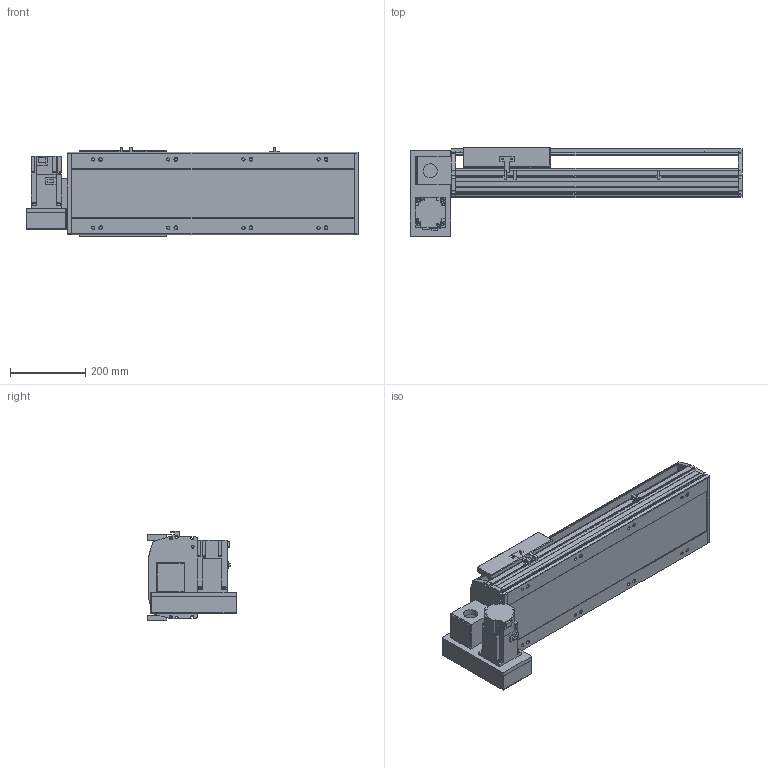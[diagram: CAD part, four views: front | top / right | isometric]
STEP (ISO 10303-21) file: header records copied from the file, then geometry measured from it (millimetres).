
FILE_DESCRIPTION(/* description */ ('STEP AP214'),/* implementation_level */ '2;1');
FILE_NAME(/* name */ 'PBS220-P40-S400-LD-T75-C1-N(0)',/* time_stamp */ '2022-06-27T09:42:55+02:00',/* author */ ('License CC BY-ND 4.0'),/* organization */ ('CADENAS'),/* preprocessor_version */ 'ST-DEVELOPER v18.102',/* originating_system */ 'PARTsolutions',/* authorisation */ ' ');
FILE_SCHEMA (('AUTOMOTIVE_DESIGN {1 0 10303 214 3 1 1}'));
Length unit declared in the file: millimetre
Products named in the file (7): PBS220-P40-S400-LD-T75-C1-N(0); PBS220_sensor; PBS220_plant; PBS220_sliser; T75-p1; PBS220T-LD_motors; PBS220-S400()_body
Assembly tree (8 placements, depth 2):
  PBS220-P40-S400-LD-T75-C1-N(0)
    PBS220_sensor  x3
    PBS220_plant
    PBS220_sliser
    T75-p1
    PBS220T-LD_motors
    PBS220-S400()_body
Bounding box: 884 x 239 x 238.5 mm (x, y, z)
Volume: 13382202.8 mm3; surface area: 1410994.2 mm2
Topology: 8 solids, 8 shells, 866 faces, 2284 edges, 1486 vertices
Faces by surface type: plane 582, cylinder 252, cone 32
Full cylindrical faces by diameter (mm): 2.013 x4, 4.5 x14, 4.917 x4, 6 x7, 6.647 x8, 8 x10, 8.376 x8, 8.5 x8, 10 x6, 14 x8, 38 x2, 40 x1, 70 x1
Entity records: 24380 total; most frequent: DIRECTION 4239, CARTESIAN_POINT 4228, ORIENTED_EDGE 3962, EDGE_CURVE 1981, AXIS2_PLACEMENT_3D 1451, VERTEX_POINT 1352, LINE 1337, VECTOR 1337
